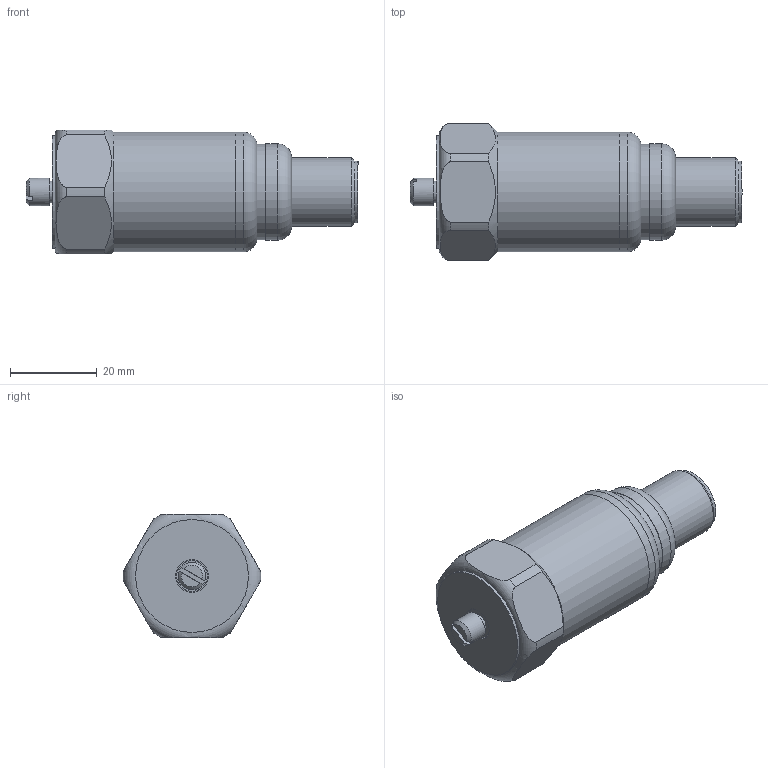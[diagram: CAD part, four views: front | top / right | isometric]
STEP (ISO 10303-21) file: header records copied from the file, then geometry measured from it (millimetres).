
FILE_DESCRIPTION(/* description */ (''),/* implementation_level */ '2;1');
FILE_NAME(/* name */ 'Z:\Engineering\Drawings\3D Library\Assemblies\Website\HS-420XXX5002.stp',/* time_stamp */ '2023-04-05T21:28:10+01:00',/* author */ ('Ricardo.Peneda'),/* organization */ (''),/* preprocessor_version */ 'ST-DEVELOPER v18.1',/* originating_system */ 'Autodesk Inventor 2021',/* authorisation */ '');
FILE_SCHEMA (('AUTOMOTIVE_DESIGN { 1 0 10303 214 3 1 1 }'));
Length unit declared in the file: inch
Products named in the file (1): HS-420XXX5002_Shrinkwrap_1
Bounding box: 76.47 x 31.69 x 28.5 mm (x, y, z)
Volume: 15871.9 mm3; surface area: 12119.7 mm2
Topology: 4 solids, 4 shells, 71 faces, 186 edges, 134 vertices
Faces by surface type: plane 33, cylinder 26, cone 8, torus 4
Full cylindrical faces by diameter (mm): 4.914 x2, 6.3 x1, 6.34 x2, 7.027 x1, 7.5 x1, 11.37 x1, 14.28 x1, 15.7 x1, 19 x1, 20 x1, 22 x1, 22.2 x1, 23.3 x1, 25.3 x2, 26 x1, 27.5 x2
Entity records: 2510 total; most frequent: CARTESIAN_POINT 554, DIRECTION 420, ORIENTED_EDGE 372, EDGE_CURVE 186, AXIS2_PLACEMENT_3D 184, VERTEX_POINT 134, CIRCLE 112, EDGE_LOOP 84
